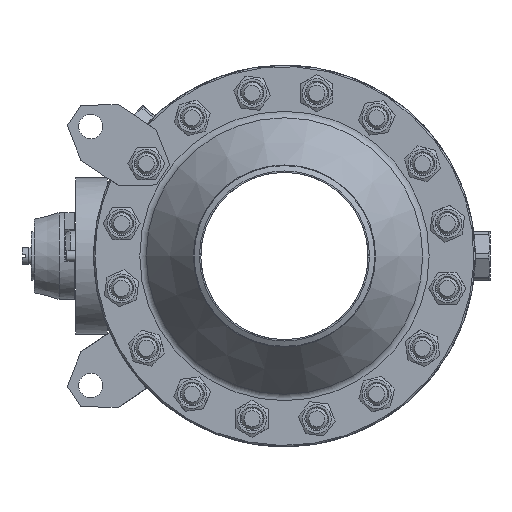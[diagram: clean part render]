
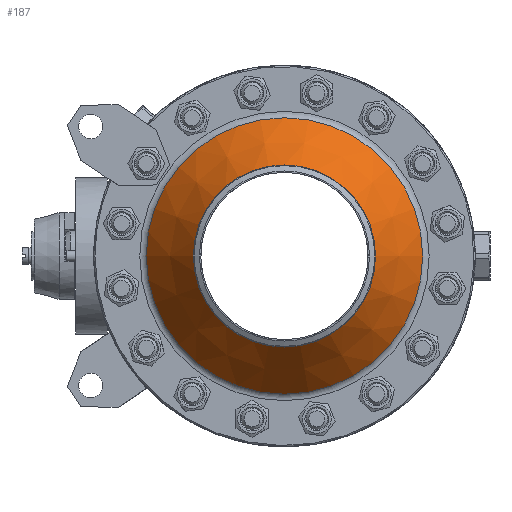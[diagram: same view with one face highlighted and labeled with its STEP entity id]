
A CAD part, left-side view. The second image highlights one B-rep face of the part: STEP entity #187.
In plain terms, the highlighted conical face has half-angle 36.229 degrees and reference radius 85.601 mm.
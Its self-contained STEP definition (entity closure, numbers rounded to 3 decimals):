
#187=ADVANCED_FACE('',(#1873),#1875,.T.);
#1873=FACE_OUTER_BOUND('',#1874,.T.);
#1874=EDGE_LOOP('',(#9741,#9742,#9743,#9744));
#1875=CONICAL_SURFACE('',#1876,85.601,0.632);
#1876=AXIS2_PLACEMENT_3D('',#1877,#1878,#1879);
#1877=CARTESIAN_POINT('',(-126.477,0.,0.));
#1878=DIRECTION('',(1.,0.,0.));
#1879=DIRECTION('',(0.,1.,0.));
#9741=ORIENTED_EDGE('',*,*,#14163,.F.);
#9742=ORIENTED_EDGE('',*,*,#14307,.T.);
#9743=ORIENTED_EDGE('',*,*,#14308,.T.);
#9744=ORIENTED_EDGE('',*,*,#14307,.F.);
#14163=EDGE_CURVE('',#16645,#16645,#16647,.T.);
#14307=EDGE_CURVE('',#16645,#16883,#16884,.T.);
#14308=EDGE_CURVE('',#16883,#16883,#16885,.T.);
#16645=VERTEX_POINT('',#22544);
#16647=CIRCLE('',#22549,103.202);
#16883=VERTEX_POINT('',#25956);
#16884=LINE('',#25957,#25958);
#16885=CIRCLE('',#25960,68.);
#22544=CARTESIAN_POINT('',(-102.454,103.202,0.));
#22549=AXIS2_PLACEMENT_3D('',#22550,#22551,#22552);
#22550=CARTESIAN_POINT('',(-102.454,0.,0.));
#22551=DIRECTION('',(1.,0.,-0.));
#22552=DIRECTION('',(0.,1.,0.));
#25956=CARTESIAN_POINT('',(-150.5,68.,0.));
#25957=CARTESIAN_POINT('',(-102.454,103.202,0.));
#25958=VECTOR('',#25959,1.);
#25959=DIRECTION('',(-0.807,-0.591,0.));
#25960=AXIS2_PLACEMENT_3D('',#25961,#25962,#25963);
#25961=CARTESIAN_POINT('',(-150.5,0.,0.));
#25962=DIRECTION('',(1.,0.,-0.));
#25963=DIRECTION('',(0.,1.,0.));
